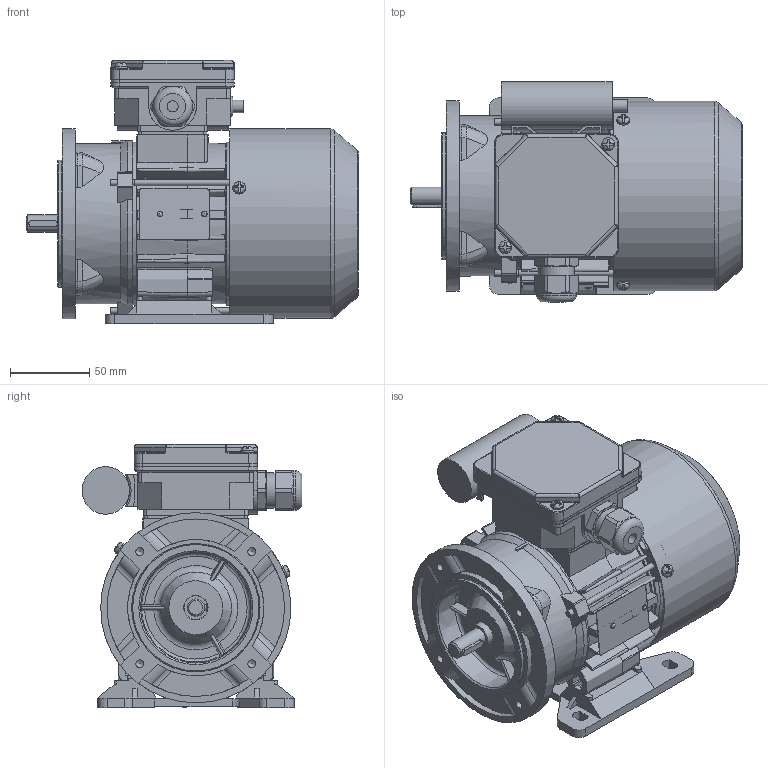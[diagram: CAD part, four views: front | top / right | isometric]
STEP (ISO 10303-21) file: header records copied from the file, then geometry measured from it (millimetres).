
FILE_DESCRIPTION( ( 'Unknown' ), '1' );
FILE_NAME( 'G:/Poczta Tk-1/STP/w.m.63/SEh63/SE(M)Lh63-B1.stp', 'Unknown', ( 'K. Szlosek' ), ( 'BESEL S.A.' ), 'PSStep 17.0.49', 'Unknown', ' ' );
FILE_SCHEMA( ( 'AUTOMOTIVE_DESIGN { 1 0 10303 214 1 1 1 1 }' ) );
Length unit declared in the file: millimetre
Products named in the file (33): Assem1; K3-5320 Tarcza łożyskowa P Sg63; K4-2320 Uszczelka nr 1 Sh71,80; Wpust A4x4x18; K4-2820 Uszczelka nr 2 Sh71,80; K2-0860 Pokrywka skrzynki zaciskowej; Wkręt samogwintujący M4x16; K4-0898 Tulejka uszczelniająca; Kondensator zb 8-10uF; K2-1769 Przewietrznik Sg63; Wkręt samogwintujący M4x8; K1-1107 Łapa Sg63-.. w. robocza; K3-9974 wał Sh63-A,B standard; K3-9973 Kadłub ze stojanem wykończonym Sh63-B; K3-9440 Podstawa  skrzynki zaciskowej SEhR71-D; K3-1974 Uchwyt kondensatora (mały); K3-5321 osłona przewietrznika Sg63; K1-1111 Tarcza kołnierzowa w.m. 63 IMB14_1; Dławnica M20x1,5; Łożysko 6202; Śruba ściągająca E_M4x85; Tabliczka znamionowa 32x44; Nitokołek A 2x6
Assembly tree (49 placements, depth 2):
  Assem1
    K3-5320 Tarcza łożyskowa P Sg63
    K4-2320 Uszczelka nr 1 Sh71,80
    Wpust A4x4x18
    K4-2820 Uszczelka nr 2 Sh71,80
    K2-0860 Pokrywka skrzynki zaciskowej
    Wkręt samogwintujący M4x16  x2
    K4-0898 Tulejka uszczelniająca
    Kondensator zb 8-10uF
    K2-1769 Przewietrznik Sg63
    Wkręt samogwintujący M4x8  x3
    K1-1107 Łapa Sg63-.. w. robocza
    K3-9974 wał Sh63-A,B standard
    K3-9973 Kadłub ze stojanem wykończonym Sh63-B
    K3-9440 Podstawa  skrzynki zaciskowej SEhR71-D
    K3-1974 Uchwyt kondensatora (mały)
    K3-5321 osłona przewietrznika Sg63
    K1-1111 Tarcza kołnierzowa w.m. 63 IMB14_1
    Dławnica M20x1,5
    Łożysko 6202  x2
    Łożysko 6202  x2
    Łożysko 6202  x2
    Łożysko 6202  x2
    Łożysko 6202  x2
    Łożysko 6202  x2
    Łożysko 6202  x2
    Łożysko 6202  x2
    Łożysko 6202  x2
    Łożysko 6202  x2
    Łożysko 6202  x2
    Śruba ściągająca E_M4x85  x3
    Tabliczka znamionowa 32x44
    Nitokołek A 2x6  x2
Bounding box: 209.5 x 138.82 x 166 mm (x, y, z)
Volume: 626101.3 mm3; surface area: 384589.5 mm2
Topology: 49 solids, 67 shells, 2112 faces, 5806 edges, 3770 vertices
Faces by surface type: plane 1063, cylinder 627, cone 130, torus 130, bspline 123, sphere 39
Full cylindrical faces by diameter (mm): 2 x2, 2.4 x2, 3 x1, 3.3 x3, 3.5 x2, 3.7 x10, 4 x8, 4.5 x4, 4.6 x1, 4.8 x4, 5 x8, 5.8 x4, 6.5 x1, 7 x4, 8 x7, 10 x2, 11 x1, 12.9 x1, 13.1 x1, 13.5 x1, 15 x4, 15.4 x2, 18.38 x1, 18.5 x1, 19 x2, 19.5 x1, 20 x2, 20.1 x1, 21.52 x4, 22.3 x1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
Entity records: 90951 total; most frequent: CARTESIAN_POINT 27661, ORIENTED_EDGE 10116, DIRECTION 9718, EDGE_CURVE 5058, AXIS2_PLACEMENT_3D 3574, VERTEX_POINT 3435, LINE 2570, VECTOR 2570
